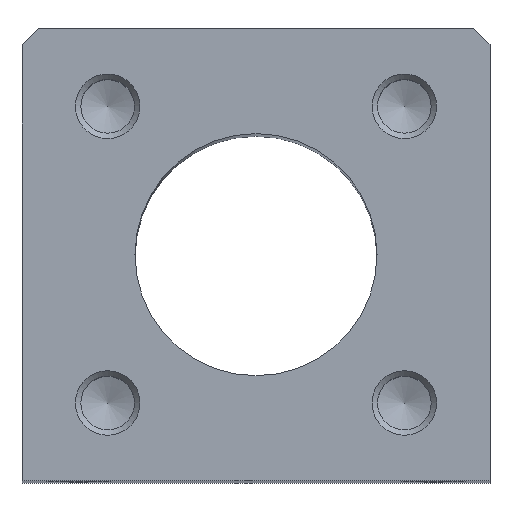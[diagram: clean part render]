
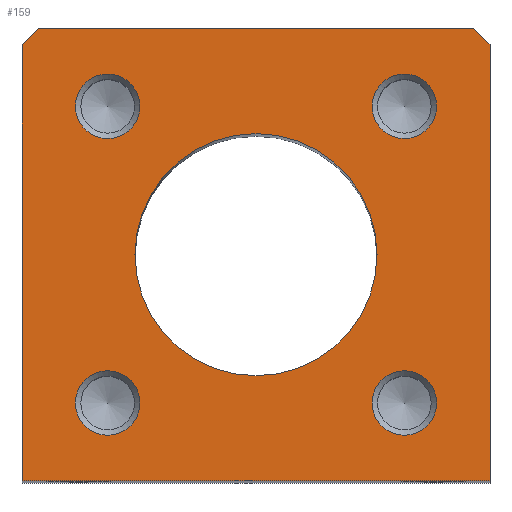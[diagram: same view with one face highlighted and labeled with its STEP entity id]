
A CAD part, top view. The second image highlights one B-rep face of the part: STEP entity #159.
In plain terms, the highlighted planar face has unit normal (0, 0, 1).
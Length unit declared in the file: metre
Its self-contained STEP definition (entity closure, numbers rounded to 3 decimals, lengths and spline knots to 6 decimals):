
#159 = ADVANCED_FACE( '', ( #376, #377, #378, #379, #380, #381 ), #382, .F. );
#376 = FACE_BOUND( '', #645, .T. );
#377 = FACE_BOUND( '', #646, .T. );
#378 = FACE_BOUND( '', #647, .T. );
#379 = FACE_BOUND( '', #648, .T. );
#380 = FACE_BOUND( '', #649, .T. );
#381 = FACE_OUTER_BOUND( '', #650, .T. );
#382 = PLANE( '', #651 );
#645 = EDGE_LOOP( '', ( #995 ) );
#646 = EDGE_LOOP( '', ( #996 ) );
#647 = EDGE_LOOP( '', ( #997 ) );
#648 = EDGE_LOOP( '', ( #998 ) );
#649 = EDGE_LOOP( '', ( #999 ) );
#650 = EDGE_LOOP( '', ( #1000, #1001, #1002, #1003, #1004, #1005 ) );
#651 = AXIS2_PLACEMENT_3D( '', #1006, #1007, #1008 );
#995 = ORIENTED_EDGE( '', *, *, #1287, .T. );
#996 = ORIENTED_EDGE( '', *, *, #1288, .T. );
#997 = ORIENTED_EDGE( '', *, *, #1195, .F. );
#998 = ORIENTED_EDGE( '', *, *, #1289, .F. );
#999 = ORIENTED_EDGE( '', *, *, #1290, .T. );
#1000 = ORIENTED_EDGE( '', *, *, #1291, .F. );
#1001 = ORIENTED_EDGE( '', *, *, #1223, .T. );
#1002 = ORIENTED_EDGE( '', *, *, #1232, .F. );
#1003 = ORIENTED_EDGE( '', *, *, #1262, .F. );
#1004 = ORIENTED_EDGE( '', *, *, #1292, .F. );
#1005 = ORIENTED_EDGE( '', *, *, #1284, .T. );
#1006 = CARTESIAN_POINT( '', ( -0.029, 0.028, 0. ) );
#1007 = DIRECTION( '', ( 0., 0., -1. ) );
#1008 = DIRECTION( '', ( 0., 1., 0. ) );
#1195 = EDGE_CURVE( '', #1349, #1349, #1350, .T. );
#1223 = EDGE_CURVE( '', #1397, #1395, #1398, .F. );
#1232 = EDGE_CURVE( '', #1409, #1395, #1410, .T. );
#1262 = EDGE_CURVE( '', #1453, #1409, #1454, .T. );
#1284 = EDGE_CURVE( '', #1484, #1482, #1485, .F. );
#1287 = EDGE_CURVE( '', #1488, #1488, #1489, .T. );
#1288 = EDGE_CURVE( '', #1490, #1490, #1491, .T. );
#1289 = EDGE_CURVE( '', #1492, #1492, #1493, .T. );
#1290 = EDGE_CURVE( '', #1494, #1494, #1495, .T. );
#1291 = EDGE_CURVE( '', #1397, #1482, #1496, .T. );
#1292 = EDGE_CURVE( '', #1484, #1453, #1497, .T. );
#1349 = VERTEX_POINT( '', #1560 );
#1350 = CIRCLE( '', #1561, 0.004 );
#1395 = VERTEX_POINT( '', #1607 );
#1397 = VERTEX_POINT( '', #1610 );
#1398 = LINE( '', #1611, #1612 );
#1409 = VERTEX_POINT( '', #1624 );
#1410 = LINE( '', #1625, #1626 );
#1453 = VERTEX_POINT( '', #1671 );
#1454 = LINE( '', #1672, #1673 );
#1482 = VERTEX_POINT( '', #1706 );
#1484 = VERTEX_POINT( '', #1709 );
#1485 = LINE( '', #1710, #1711 );
#1488 = VERTEX_POINT( '', #1715 );
#1489 = CIRCLE( '', #1716, 0.015 );
#1490 = VERTEX_POINT( '', #1717 );
#1491 = CIRCLE( '', #1718, 0.004 );
#1492 = VERTEX_POINT( '', #1719 );
#1493 = CIRCLE( '', #1720, 0.004 );
#1494 = VERTEX_POINT( '', #1721 );
#1495 = CIRCLE( '', #1722, 0.004 );
#1496 = LINE( '', #1723, #1724 );
#1497 = LINE( '', #1725, #1726 );
#1560 = CARTESIAN_POINT( '', ( 0.014385, -0.018385, 0. ) );
#1561 = AXIS2_PLACEMENT_3D( '', #1791, #1792, #1793 );
#1607 = CARTESIAN_POINT( '', ( -0.029, 0.026, 0. ) );
#1610 = CARTESIAN_POINT( '', ( -0.027, 0.028, 0. ) );
#1611 = CARTESIAN_POINT( '', ( -0.027, 0.028, 0. ) );
#1612 = VECTOR( '', #1844, 1. );
#1624 = CARTESIAN_POINT( '', ( -0.029, -0.028, 0. ) );
#1625 = CARTESIAN_POINT( '', ( -0.029, -0.028, 0. ) );
#1626 = VECTOR( '', #1855, 1. );
#1671 = CARTESIAN_POINT( '', ( 0.029, -0.028, 0. ) );
#1672 = CARTESIAN_POINT( '', ( 0.029, -0.028, 0. ) );
#1673 = VECTOR( '', #1897, 1. );
#1706 = CARTESIAN_POINT( '', ( 0.027, 0.028, 0. ) );
#1709 = CARTESIAN_POINT( '', ( 0.029, 0.026, 0. ) );
#1710 = CARTESIAN_POINT( '', ( 0.029, 0.026, 0. ) );
#1711 = VECTOR( '', #1922, 1. );
#1715 = CARTESIAN_POINT( '', ( -0.015, 0., 0. ) );
#1716 = AXIS2_PLACEMENT_3D( '', #1924, #1925, #1926 );
#1717 = CARTESIAN_POINT( '', ( -0.014385, -0.018385, 0. ) );
#1718 = AXIS2_PLACEMENT_3D( '', #1927, #1928, #1929 );
#1719 = CARTESIAN_POINT( '', ( -0.014385, 0.018385, 0. ) );
#1720 = AXIS2_PLACEMENT_3D( '', #1930, #1931, #1932 );
#1721 = CARTESIAN_POINT( '', ( 0.014385, 0.018385, 0. ) );
#1722 = AXIS2_PLACEMENT_3D( '', #1933, #1934, #1935 );
#1723 = CARTESIAN_POINT( '', ( -0.029, 0.028, 0. ) );
#1724 = VECTOR( '', #1936, 1. );
#1725 = CARTESIAN_POINT( '', ( 0.029, 0.028, 0. ) );
#1726 = VECTOR( '', #1937, 1. );
#1791 = CARTESIAN_POINT( '', ( 0.018385, -0.018385, 0. ) );
#1792 = DIRECTION( '', ( 0., 0., 1. ) );
#1793 = DIRECTION( '', ( -1., 0., 0. ) );
#1844 = DIRECTION( '', ( 0.707, 0.707, 0. ) );
#1855 = DIRECTION( '', ( 0., 1., 0. ) );
#1897 = DIRECTION( '', ( -1., 0., 0. ) );
#1922 = DIRECTION( '', ( 0.707, -0.707, 0. ) );
#1924 = CARTESIAN_POINT( '', ( 0., 0., 0. ) );
#1925 = DIRECTION( '', ( 0., 0., -1. ) );
#1926 = DIRECTION( '', ( -1., 0., 0. ) );
#1927 = CARTESIAN_POINT( '', ( -0.018385, -0.018385, 0. ) );
#1928 = DIRECTION( '', ( 0., 0., -1. ) );
#1929 = DIRECTION( '', ( 1., 0., 0. ) );
#1930 = CARTESIAN_POINT( '', ( -0.018385, 0.018385, 0. ) );
#1931 = DIRECTION( '', ( 0., 0., 1. ) );
#1932 = DIRECTION( '', ( 1., 0., 0. ) );
#1933 = CARTESIAN_POINT( '', ( 0.018385, 0.018385, 0. ) );
#1934 = DIRECTION( '', ( 0., 0., -1. ) );
#1935 = DIRECTION( '', ( -1., 0., 0. ) );
#1936 = DIRECTION( '', ( 1., 0., 0. ) );
#1937 = DIRECTION( '', ( 0., -1., 0. ) );
